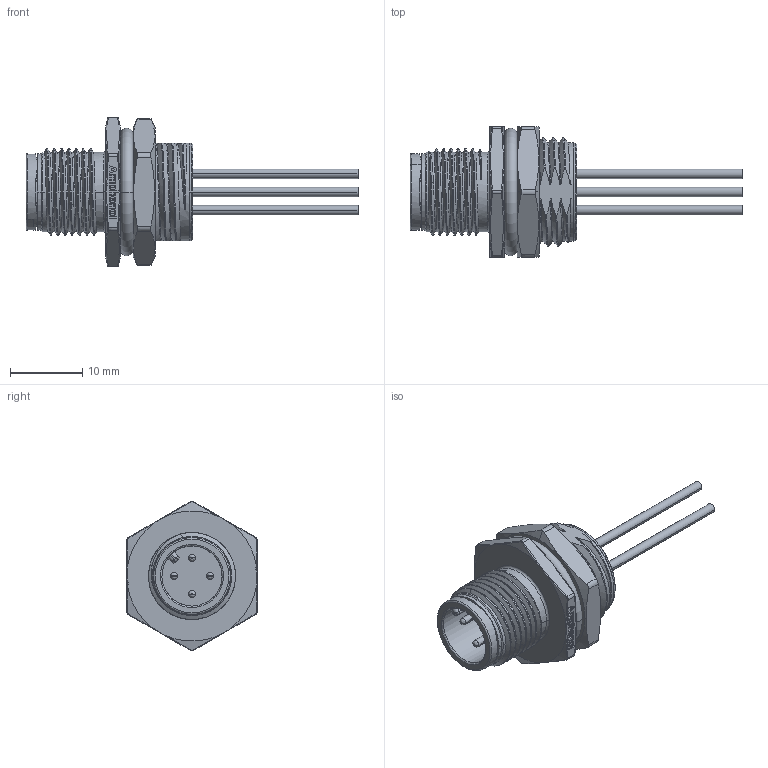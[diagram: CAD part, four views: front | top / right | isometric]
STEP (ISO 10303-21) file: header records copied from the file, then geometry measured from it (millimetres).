
FILE_DESCRIPTION((''),'2;1');
FILE_NAME('M12A-05PMMC-SH8BXX','2015-09-15T',('KS6143'),(''),'PRO/ENGINEER BY PARAMETRIC TECHNOLOGY CORPORATION, 2013050','PRO/ENGINEER BY PARAMETRIC TECHNOLOGY CORPORATION, 2013050','');
FILE_SCHEMA(('CONFIG_CONTROL_DESIGN'));
Products named in the file (1): M12A-05PMMC-SH8BXX
Bounding box: 45.8 x 18 x 20.64 mm (x, y, z)
Volume: 3221 mm3; surface area: 4462.5 mm2
Topology: 2 solids, 3 shells, 580 faces, 1582 edges, 1033 vertices
Faces by surface type: plane 219, bspline 128, cylinder 111, extrusion 80, cone 24, torus 18
Entity records: 54076 total; most frequent: CARTESIAN_POINT 36598, ORIENTED_EDGE 3164, DIRECTION 2044, EDGE_CURVE 1582, VERTEX_POINT 1033, VECTOR 816, LINE 736, B_SPLINE_CURVE_WITH_KNOTS 684
